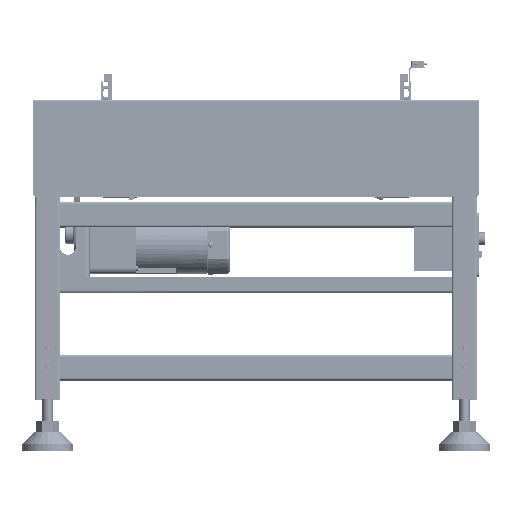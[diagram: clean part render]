
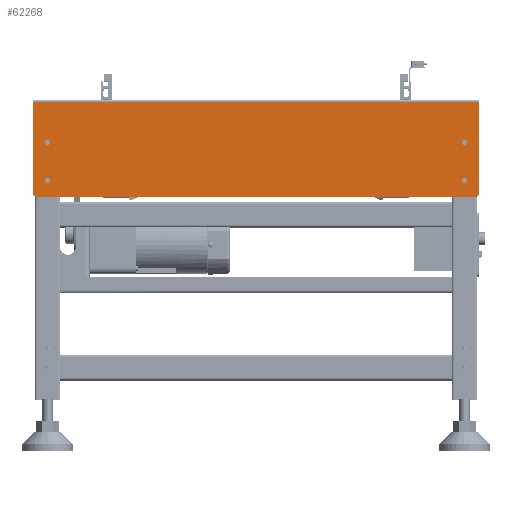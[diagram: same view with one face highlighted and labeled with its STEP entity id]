
A CAD part, top view. The second image highlights one B-rep face of the part: STEP entity #62268.
In plain terms, the highlighted planar face has unit normal (0, 0, 1).
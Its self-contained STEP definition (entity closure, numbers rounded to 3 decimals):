
#1096 = DIRECTION ( 'NONE',  ( -1., 0., 0. ) ) ;
#2026 = DIRECTION ( 'NONE',  ( -1., 0., 0. ) ) ;
#2595 = VECTOR ( 'NONE', #29971, 1000. ) ;
#3626 = AXIS2_PLACEMENT_3D ( 'NONE', #73931, #101416, #91860 ) ;
#4177 = CARTESIAN_POINT ( 'NONE',  ( 323., -51., 0. ) ) ;
#4225 = CIRCLE ( 'NONE', #41955, 4. ) ;
#6682 = AXIS2_PLACEMENT_3D ( 'NONE', #97421, #115300, #68734 ) ;
#7474 = CARTESIAN_POINT ( 'NONE',  ( 327., 9., 0. ) ) ;
#9012 = CIRCLE ( 'NONE', #111311, 4. ) ;
#9808 = CARTESIAN_POINT ( 'NONE',  ( 344., -71., 0. ) ) ;
#9983 = CIRCLE ( 'NONE', #100701, 4. ) ;
#11352 = ORIENTED_EDGE ( 'NONE', *, *, #72561, .T. ) ;
#12045 = DIRECTION ( 'NONE',  ( 0., 0., -1. ) ) ;
#12844 = LINE ( 'NONE', #55256, #71149 ) ;
#13911 = EDGE_LOOP ( 'NONE', ( #88577, #79270 ) ) ;
#14025 = CARTESIAN_POINT ( 'NONE',  ( -349., -71., 0. ) ) ;
#14039 = DIRECTION ( 'NONE',  ( -1., 0., 0. ) ) ;
#14815 = VERTEX_POINT ( 'NONE', #45321 ) ;
#16246 = VERTEX_POINT ( 'NONE', #83423 ) ;
#16487 = DIRECTION ( 'NONE',  ( -1., 0., 0. ) ) ;
#16897 = VERTEX_POINT ( 'NONE', #71653 ) ;
#18074 = EDGE_LOOP ( 'NONE', ( #37444, #59124, #86225, #68633, #56883, #94834 ) ) ;
#18486 = AXIS2_PLACEMENT_3D ( 'NONE', #81392, #45184, #89358 ) ;
#18520 = EDGE_CURVE ( 'NONE', #88777, #14815, #34946, .T. ) ;
#19452 = DIRECTION ( 'NONE',  ( -1., 0., 0. ) ) ;
#19658 = CARTESIAN_POINT ( 'NONE',  ( -327., 9., 0. ) ) ;
#22809 = FACE_OUTER_BOUND ( 'NONE', #18074, .T. ) ;
#26618 = DIRECTION ( 'NONE',  ( 0., 0., -1. ) ) ;
#26844 = CARTESIAN_POINT ( 'NONE',  ( 327., 9., 0. ) ) ;
#27871 = LINE ( 'NONE', #34835, #79033 ) ;
#28751 = CIRCLE ( 'NONE', #6682, 5. ) ;
#29198 = CARTESIAN_POINT ( 'NONE',  ( -349., -76., 0. ) ) ;
#29971 = DIRECTION ( 'NONE',  ( 1., 0., 0. ) ) ;
#29993 = VECTOR ( 'NONE', #100200, 1000. ) ;
#30849 = EDGE_CURVE ( 'NONE', #14815, #88777, #93303, .T. ) ;
#30970 = EDGE_CURVE ( 'NONE', #108899, #74645, #39742, .T. ) ;
#33218 = VERTEX_POINT ( 'NONE', #14025 ) ;
#34835 = CARTESIAN_POINT ( 'NONE',  ( -349., -76., 0. ) ) ;
#34946 = CIRCLE ( 'NONE', #106750, 4. ) ;
#36333 = DIRECTION ( 'NONE',  ( 0., 0., -1. ) ) ;
#36911 = ORIENTED_EDGE ( 'NONE', *, *, #30970, .T. ) ;
#37444 = ORIENTED_EDGE ( 'NONE', *, *, #78791, .T. ) ;
#39742 = CIRCLE ( 'NONE', #77959, 4. ) ;
#40760 = ORIENTED_EDGE ( 'NONE', *, *, #18520, .T. ) ;
#41955 = AXIS2_PLACEMENT_3D ( 'NONE', #26844, #81674, #63779 ) ;
#44116 = CIRCLE ( 'NONE', #44922, 4. ) ;
#44727 = CIRCLE ( 'NONE', #102498, 5. ) ;
#44854 = DIRECTION ( 'NONE',  ( -1., 0., 0. ) ) ;
#44922 = AXIS2_PLACEMENT_3D ( 'NONE', #63337, #36333, #99923 ) ;
#44953 = ORIENTED_EDGE ( 'NONE', *, *, #88205, .T. ) ;
#45184 = DIRECTION ( 'NONE',  ( 0., 0., -1. ) ) ;
#45321 = CARTESIAN_POINT ( 'NONE',  ( -331., -51., 0. ) ) ;
#45505 = CARTESIAN_POINT ( 'NONE',  ( -323., 9., 0. ) ) ;
#45556 = FACE_BOUND ( 'NONE', #13911, .T. ) ;
#48984 = CARTESIAN_POINT ( 'NONE',  ( -331., 9., 0. ) ) ;
#52278 = EDGE_LOOP ( 'NONE', ( #44953, #36911 ) ) ;
#52404 = LINE ( 'NONE', #29198, #2595 ) ;
#52482 = VERTEX_POINT ( 'NONE', #107618 ) ;
#53603 = EDGE_CURVE ( 'NONE', #79803, #94516, #52404, .T. ) ;
#55209 = CARTESIAN_POINT ( 'NONE',  ( 349., -71., 0. ) ) ;
#55256 = CARTESIAN_POINT ( 'NONE',  ( 349., 72.5, 0. ) ) ;
#55511 = FACE_BOUND ( 'NONE', #52278, .T. ) ;
#55797 = CIRCLE ( 'NONE', #3626, 4. ) ;
#56883 = ORIENTED_EDGE ( 'NONE', *, *, #107428, .T. ) ;
#58408 = EDGE_CURVE ( 'NONE', #33218, #79803, #28751, .T. ) ;
#59124 = ORIENTED_EDGE ( 'NONE', *, *, #58408, .T. ) ;
#59966 = EDGE_CURVE ( 'NONE', #16246, #70235, #9012, .T. ) ;
#62268 = ADVANCED_FACE ( 'NONE', ( #66920, #55511, #116697, #45556, #22809 ), #71480, .F. ) ;
#63337 = CARTESIAN_POINT ( 'NONE',  ( 327., -51., 0. ) ) ;
#63779 = DIRECTION ( 'NONE',  ( -1., 0., 0. ) ) ;
#66920 = FACE_BOUND ( 'NONE', #95672, .T. ) ;
#68633 = ORIENTED_EDGE ( 'NONE', *, *, #94080, .T. ) ;
#68734 = DIRECTION ( 'NONE',  ( -1., 0., 0. ) ) ;
#69160 = CARTESIAN_POINT ( 'NONE',  ( -344., -76., 0. ) ) ;
#70235 = VERTEX_POINT ( 'NONE', #76926 ) ;
#70342 = AXIS2_PLACEMENT_3D ( 'NONE', #72091, #90401, #16487 ) ;
#71149 = VECTOR ( 'NONE', #1096, 1000. ) ;
#71480 = PLANE ( 'NONE',  #18486 ) ;
#71653 = CARTESIAN_POINT ( 'NONE',  ( 331., -51., 0. ) ) ;
#72091 = CARTESIAN_POINT ( 'NONE',  ( -327., -51., 0. ) ) ;
#72338 = EDGE_CURVE ( 'NONE', #70235, #16246, #4225, .T. ) ;
#72561 = EDGE_CURVE ( 'NONE', #110087, #16897, #9983, .T. ) ;
#73843 = DIRECTION ( 'NONE',  ( 0., 0., 1. ) ) ;
#73931 = CARTESIAN_POINT ( 'NONE',  ( -327., 9., 0. ) ) ;
#74645 = VERTEX_POINT ( 'NONE', #48984 ) ;
#75082 = EDGE_CURVE ( 'NONE', #52482, #114612, #12844, .T. ) ;
#76926 = CARTESIAN_POINT ( 'NONE',  ( 331., 9., 0. ) ) ;
#77959 = AXIS2_PLACEMENT_3D ( 'NONE', #19658, #101543, #2026 ) ;
#78791 = EDGE_CURVE ( 'NONE', #114612, #33218, #27871, .T. ) ;
#79033 = VECTOR ( 'NONE', #88471, 1000. ) ;
#79270 = ORIENTED_EDGE ( 'NONE', *, *, #72338, .T. ) ;
#79513 = LINE ( 'NONE', #109759, #29993 ) ;
#79803 = VERTEX_POINT ( 'NONE', #69160 ) ;
#81392 = CARTESIAN_POINT ( 'NONE',  ( 0., 0., 0. ) ) ;
#81674 = DIRECTION ( 'NONE',  ( 0., 0., -1. ) ) ;
#83423 = CARTESIAN_POINT ( 'NONE',  ( 323., 9., 0. ) ) ;
#83761 = ORIENTED_EDGE ( 'NONE', *, *, #30849, .T. ) ;
#84432 = CARTESIAN_POINT ( 'NONE',  ( 327., -51., 0. ) ) ;
#86225 = ORIENTED_EDGE ( 'NONE', *, *, #53603, .T. ) ;
#88205 = EDGE_CURVE ( 'NONE', #74645, #108899, #55797, .T. ) ;
#88471 = DIRECTION ( 'NONE',  ( 0., -1., 0. ) ) ;
#88577 = ORIENTED_EDGE ( 'NONE', *, *, #59966, .T. ) ;
#88777 = VERTEX_POINT ( 'NONE', #98043 ) ;
#89358 = DIRECTION ( 'NONE',  ( -1., 0., 0. ) ) ;
#90401 = DIRECTION ( 'NONE',  ( 0., 0., -1. ) ) ;
#91860 = DIRECTION ( 'NONE',  ( -1., 0., 0. ) ) ;
#93224 = DIRECTION ( 'NONE',  ( -1., 0., 0. ) ) ;
#93303 = CIRCLE ( 'NONE', #70342, 4. ) ;
#94080 = EDGE_CURVE ( 'NONE', #94516, #117558, #44727, .T. ) ;
#94516 = VERTEX_POINT ( 'NONE', #99982 ) ;
#94834 = ORIENTED_EDGE ( 'NONE', *, *, #75082, .T. ) ;
#95492 = EDGE_LOOP ( 'NONE', ( #83761, #40760 ) ) ;
#95615 = DIRECTION ( 'NONE',  ( 0., 0., -1. ) ) ;
#95672 = EDGE_LOOP ( 'NONE', ( #11352, #97343 ) ) ;
#97343 = ORIENTED_EDGE ( 'NONE', *, *, #113789, .T. ) ;
#97421 = CARTESIAN_POINT ( 'NONE',  ( -344., -71., 0. ) ) ;
#98043 = CARTESIAN_POINT ( 'NONE',  ( -323., -51., 0. ) ) ;
#99923 = DIRECTION ( 'NONE',  ( -1., 0., 0. ) ) ;
#99982 = CARTESIAN_POINT ( 'NONE',  ( 344., -76., 0. ) ) ;
#100200 = DIRECTION ( 'NONE',  ( 0., 1., 0. ) ) ;
#100701 = AXIS2_PLACEMENT_3D ( 'NONE', #84432, #12045, #93224 ) ;
#101416 = DIRECTION ( 'NONE',  ( 0., 0., -1. ) ) ;
#101543 = DIRECTION ( 'NONE',  ( 0., 0., -1. ) ) ;
#102498 = AXIS2_PLACEMENT_3D ( 'NONE', #9808, #73843, #19452 ) ;
#106750 = AXIS2_PLACEMENT_3D ( 'NONE', #114653, #95615, #14039 ) ;
#107428 = EDGE_CURVE ( 'NONE', #117558, #52482, #79513, .T. ) ;
#107618 = CARTESIAN_POINT ( 'NONE',  ( 349., 72.5, 0. ) ) ;
#108899 = VERTEX_POINT ( 'NONE', #45505 ) ;
#109759 = CARTESIAN_POINT ( 'NONE',  ( 349., -76., 0. ) ) ;
#110087 = VERTEX_POINT ( 'NONE', #4177 ) ;
#111311 = AXIS2_PLACEMENT_3D ( 'NONE', #7474, #26618, #44854 ) ;
#112063 = CARTESIAN_POINT ( 'NONE',  ( -349., 72.5, 0. ) ) ;
#113789 = EDGE_CURVE ( 'NONE', #16897, #110087, #44116, .T. ) ;
#114612 = VERTEX_POINT ( 'NONE', #112063 ) ;
#114653 = CARTESIAN_POINT ( 'NONE',  ( -327., -51., 0. ) ) ;
#115300 = DIRECTION ( 'NONE',  ( 0., 0., 1. ) ) ;
#116697 = FACE_BOUND ( 'NONE', #95492, .T. ) ;
#117558 = VERTEX_POINT ( 'NONE', #55209 ) ;
